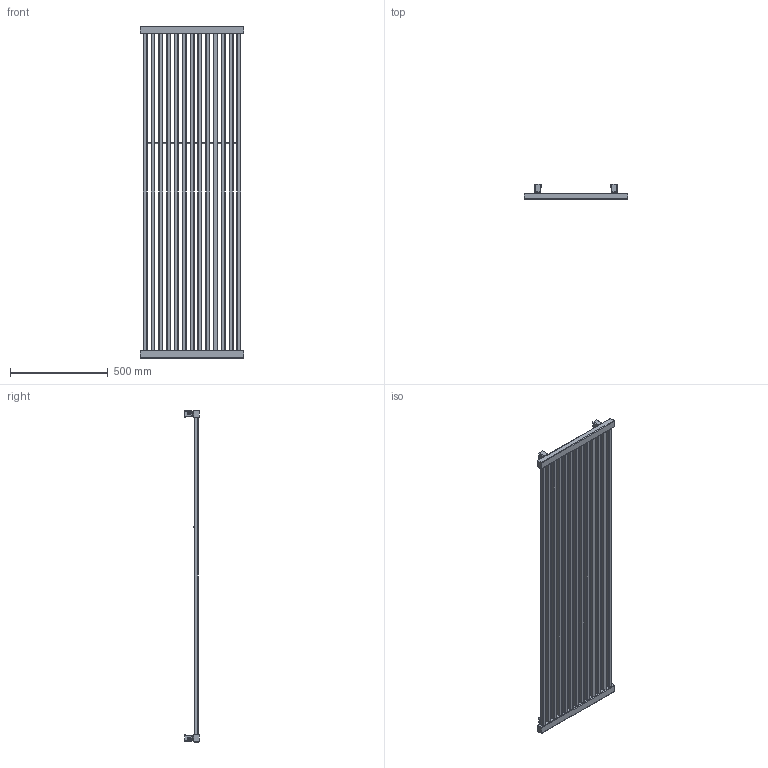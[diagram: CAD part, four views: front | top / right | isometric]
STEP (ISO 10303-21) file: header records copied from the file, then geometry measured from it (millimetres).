
FILE_DESCRIPTION((''),'2;1');
FILE_NAME('Z:\R\G\P\RGPH04 - Grzejnik Intra\Work\Inventor\Marketing\STEP\IN 17-53-ZX.stp','2012-07-25T15:26:13',('PioRo'),(''),'Autodesk Inventor 2012','Autodesk Inventor 2012','');
FILE_SCHEMA(('CONFIG_CONTROL_DESIGN'));
Length unit declared in the file: millimetre
Products named in the file (1): Część4
Bounding box: 530 x 74.5 x 1700 mm (x, y, z)
Volume: 175296.6 mm3; surface area: 1781176.4 mm2
Topology: 5 solids, 6 shells, 356 faces, 907 edges, 565 vertices
Faces by surface type: plane 146, cylinder 145, bspline 48, torus 17
Full cylindrical faces by diameter (mm): 5 x1, 10 x1, 18.631 x3
Entity records: 12405 total; most frequent: CARTESIAN_POINT 3425, ORIENTED_EDGE 1804, DIRECTION 1731, EDGE_CURVE 902, AXIS2_PLACEMENT_3D 616, VERTEX_POINT 564, VECTOR 499, LINE 499
